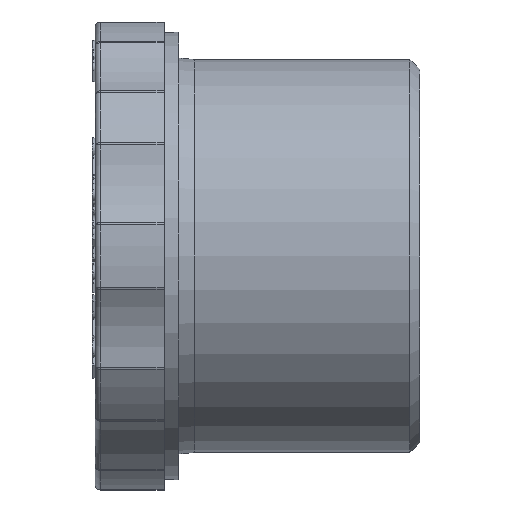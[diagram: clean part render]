
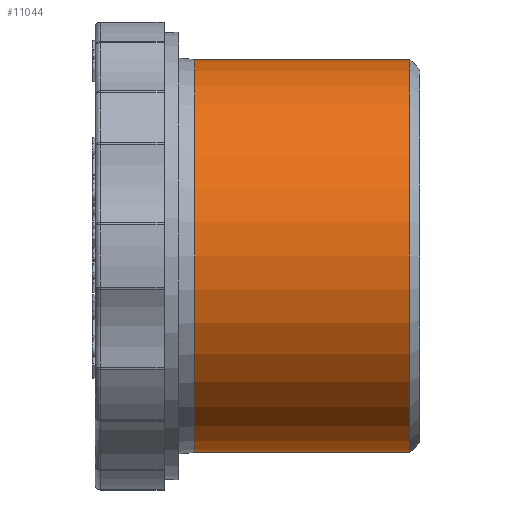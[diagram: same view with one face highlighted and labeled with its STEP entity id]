
A CAD part, left-side view. The second image highlights one B-rep face of the part: STEP entity #11044.
In plain terms, the highlighted cylindrical face has radius 20 mm (diameter 40 mm), a full revolution.
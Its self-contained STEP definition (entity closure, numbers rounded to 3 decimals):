
#53=FACE_BOUND('',#1448,.T.);
#779=FACE_OUTER_BOUND('',#1447,.T.);
#1447=EDGE_LOOP('',(#7835));
#1448=EDGE_LOOP('',(#7836));
#2216=CIRCLE('',#11817,20.);
#2217=CIRCLE('',#11820,20.);
#4819=VERTEX_POINT('',#15919);
#4820=VERTEX_POINT('',#15923);
#5991=EDGE_CURVE('',#4819,#4819,#2216,.T.);
#5992=EDGE_CURVE('',#4820,#4820,#2217,.T.);
#7835=ORIENTED_EDGE('',*,*,#5992,.F.);
#7836=ORIENTED_EDGE('',*,*,#5991,.F.);
#10924=CYLINDRICAL_SURFACE('',#11819,20.);
#11044=ADVANCED_FACE('',(#779,#53),#10924,.T.);
#11817=AXIS2_PLACEMENT_3D('',#15920,#12902,#12903);
#11819=AXIS2_PLACEMENT_3D('',#15922,#12906,#12907);
#11820=AXIS2_PLACEMENT_3D('',#15924,#12908,#12909);
#12902=DIRECTION('center_axis',(0.,-1.,0.));
#12903=DIRECTION('ref_axis',(1.,0.,0.));
#12906=DIRECTION('center_axis',(0.,1.,0.));
#12907=DIRECTION('ref_axis',(-1.,0.,0.));
#12908=DIRECTION('center_axis',(0.,1.,0.));
#12909=DIRECTION('ref_axis',(-1.,0.,0.));
#15919=CARTESIAN_POINT('',(-20.,-32.,0.));
#15920=CARTESIAN_POINT('Origin',(0.,-32.,0.));
#15922=CARTESIAN_POINT('Origin',(0.,-21.55,0.));
#15923=CARTESIAN_POINT('',(-20.,-10.1,0.));
#15924=CARTESIAN_POINT('Origin',(0.,-10.1,0.));
